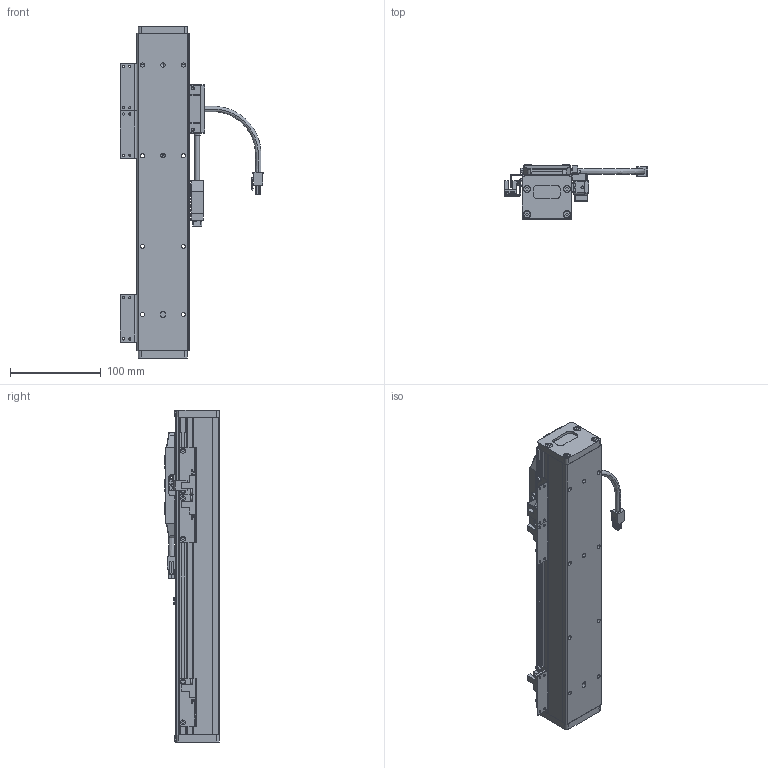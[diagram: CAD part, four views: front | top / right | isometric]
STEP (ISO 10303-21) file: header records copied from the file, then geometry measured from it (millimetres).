
FILE_DESCRIPTION(('Open CASCADE Model'),'2;1');
FILE_NAME('Open CASCADE Shape Model','2025-11-07T00:57:58',('Author'),( 'Open CASCADE'),'Open CASCADE STEP processor 7.6','Open CASCADE 7.6' ,'Unknown');
FILE_SCHEMA(('AUTOMOTIVE_DESIGN { 1 0 10303 214 1 1 1 1 }'));
Length unit declared in the file: millimetre
Products named in the file (25): Open CASCADE STEP translator 7.6 179; Open CASCADE STEP translator 7.6 179.1; Open CASCADE STEP translator 7.6 179.2; Open CASCADE STEP translator 7.6 179.3; Open CASCADE STEP translator 7.6 179.4; Open CASCADE STEP translator 7.6 179.5; Open CASCADE STEP translator 7.6 179.6; Open CASCADE STEP translator 7.6 179.7; Open CASCADE STEP translator 7.6 179.8; Open CASCADE STEP translator 7.6 179.9; Open CASCADE STEP translator 7.6 179.10; Open CASCADE STEP translator 7.6 179.11; Open CASCADE STEP translator 7.6 179.12; Open CASCADE STEP translator 7.6 179.13; Open CASCADE STEP translator 7.6 179.14; Open CASCADE STEP translator 7.6 179.14.1; Open CASCADE STEP translator 7.6 179.14.1.1; Open CASCADE STEP translator 7.6 179.14.1.2; Open CASCADE STEP translator 7.6 179.14.1.3; Open CASCADE STEP translator 7.6 179.14.1.4; Open CASCADE STEP translator 7.6 179.14.1.5; Open CASCADE STEP translator 7.6 179.15; Open CASCADE STEP translator 7.6 179.16; Open CASCADE STEP translator 7.6 179.17; Open CASCADE STEP translator 7.6 179.18
Assembly tree (24 placements, depth 4):
  Open CASCADE STEP translator 7.6 179
    Open CASCADE STEP translator 7.6 179.1
    Open CASCADE STEP translator 7.6 179.2
    Open CASCADE STEP translator 7.6 179.3
    Open CASCADE STEP translator 7.6 179.4
    Open CASCADE STEP translator 7.6 179.5
    Open CASCADE STEP translator 7.6 179.6
    Open CASCADE STEP translator 7.6 179.7
    Open CASCADE STEP translator 7.6 179.8
    Open CASCADE STEP translator 7.6 179.9
    Open CASCADE STEP translator 7.6 179.10
    Open CASCADE STEP translator 7.6 179.11
    Open CASCADE STEP translator 7.6 179.12
    Open CASCADE STEP translator 7.6 179.13
    Open CASCADE STEP translator 7.6 179.14
      Open CASCADE STEP translator 7.6 179.14.1
        Open CASCADE STEP translator 7.6 179.14.1.1
        Open CASCADE STEP translator 7.6 179.14.1.2
        Open CASCADE STEP translator 7.6 179.14.1.3
        Open CASCADE STEP translator 7.6 179.14.1.4
        Open CASCADE STEP translator 7.6 179.14.1.5
    Open CASCADE STEP translator 7.6 179.15
    Open CASCADE STEP translator 7.6 179.16
    Open CASCADE STEP translator 7.6 179.17
    Open CASCADE STEP translator 7.6 179.18
Bounding box: 158 x 60 x 366 mm (x, y, z)
Volume: 1031969.9 mm3; surface area: 179311.3 mm2
Topology: 22 solids, 23 shells, 1849 faces, 4617 edges, 2920 vertices
Faces by surface type: plane 973, cylinder 664, bspline 112, cone 84, torus 16
Entity records: 142422 total; most frequent: CARTESIAN_POINT 51807, DIRECTION 16542, LINE 10215, VECTOR 10215, ORIENTED_EDGE 9100, PCURVE 9100, DEFINITIONAL_REPRESENTATION 9100, EDGE_CURVE 4550
